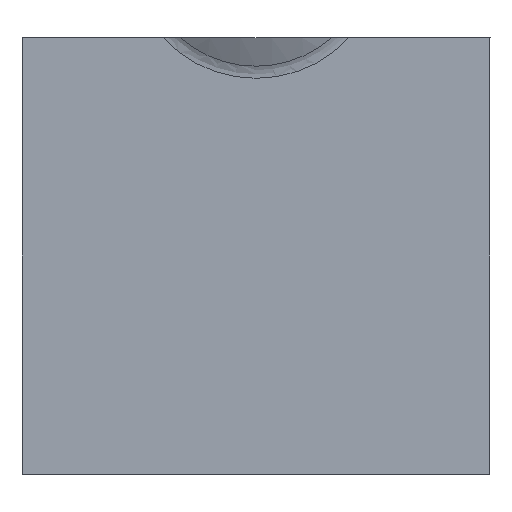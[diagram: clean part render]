
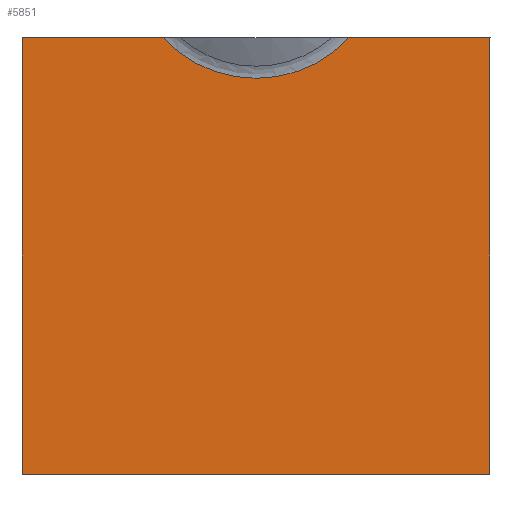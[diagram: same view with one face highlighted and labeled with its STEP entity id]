
A CAD part, top view. The second image highlights one B-rep face of the part: STEP entity #5851.
In plain terms, the highlighted planar face has unit normal (0, 0, 1).
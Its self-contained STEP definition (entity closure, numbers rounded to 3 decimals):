
#262=DIRECTION('',(0.,-1.,0.));
#263=VECTOR('',#262,37.9);
#264=CARTESIAN_POINT('',(-1.819,2.25,10.1));
#265=LINE('',#264,#263);
#1147=DIRECTION('',(1.,0.,0.));
#1148=VECTOR('',#1147,12.244);
#1149=CARTESIAN_POINT('',(-1.819,2.25,10.1));
#1150=LINE('',#1149,#1148);
#1151=CARTESIAN_POINT('',(18.5,9.75,10.1));
#1152=DIRECTION('',(0.,0.,1.));
#1153=DIRECTION('',(-0.733,-0.681,0.));
#1154=AXIS2_PLACEMENT_3D('',#1151,#1152,#1153);
#1156=CARTESIAN_POINT('',(18.5,9.75,10.1));
#1157=DIRECTION('',(0.,0.,1.));
#1158=DIRECTION('',(0.001,-1.,0.));
#1159=AXIS2_PLACEMENT_3D('',#1156,#1157,#1158);
#1161=DIRECTION('',(1.,0.,0.));
#1162=VECTOR('',#1161,12.244);
#1163=CARTESIAN_POINT('',(26.575,2.25,10.1));
#1164=LINE('',#1163,#1162);
#1165=DIRECTION('',(0.,-1.,0.));
#1166=VECTOR('',#1165,37.9);
#1167=CARTESIAN_POINT('',(38.819,2.25,10.1));
#1168=LINE('',#1167,#1166);
#1169=DIRECTION('',(-1.,0.,0.));
#1170=VECTOR('',#1169,40.638);
#1171=CARTESIAN_POINT('',(38.819,-35.65,10.1));
#1172=LINE('',#1171,#1170);
#3728=CARTESIAN_POINT('',(-1.819,2.25,10.1));
#3729=VERTEX_POINT('',#3728);
#3730=CARTESIAN_POINT('',(-1.819,-35.65,10.1));
#3731=VERTEX_POINT('',#3730);
#3811=CARTESIAN_POINT('',(38.819,-35.65,10.1));
#3812=VERTEX_POINT('',#3811);
#3813=CARTESIAN_POINT('',(38.819,2.25,10.1));
#3814=VERTEX_POINT('',#3813);
#3827=CARTESIAN_POINT('',(10.425,2.25,10.1));
#3828=VERTEX_POINT('',#3827);
#3829=CARTESIAN_POINT('',(18.51,-1.271,10.1));
#3830=VERTEX_POINT('',#3829);
#3831=CARTESIAN_POINT('',(26.575,2.25,10.1));
#3832=VERTEX_POINT('',#3831);
#5834=CARTESIAN_POINT('',(18.435,-16.75,10.1));
#5835=DIRECTION('',(0.,0.,1.));
#5836=DIRECTION('',(-1.,0.,0.));
#5837=AXIS2_PLACEMENT_3D('',#5834,#5835,#5836);
#5838=PLANE('',#5837);
#5839=ORIENTED_EDGE('',*,*,#4804,.F.);
#5840=ORIENTED_EDGE('',*,*,#5779,.T.);
#5842=ORIENTED_EDGE('',*,*,#5841,.T.);
#5844=ORIENTED_EDGE('',*,*,#5843,.T.);
#5845=ORIENTED_EDGE('',*,*,#5771,.T.);
#5846=ORIENTED_EDGE('',*,*,#5236,.T.);
#5848=ORIENTED_EDGE('',*,*,#5847,.T.);
#5849=EDGE_LOOP('',(#5839,#5840,#5842,#5844,#5845,#5846,#5848));
#5850=FACE_OUTER_BOUND('',#5849,.F.);
#5851=ADVANCED_FACE('',(#5850),#5838,.T.);
#1155=CIRCLE('',#1154,11.021);
#1160=CIRCLE('',#1159,11.021);
#4804=EDGE_CURVE('',#3729,#3731,#265,.T.);
#5236=EDGE_CURVE('',#3814,#3812,#1168,.T.);
#5771=EDGE_CURVE('',#3832,#3814,#1164,.T.);
#5779=EDGE_CURVE('',#3729,#3828,#1150,.T.);
#5841=EDGE_CURVE('',#3828,#3830,#1155,.T.);
#5843=EDGE_CURVE('',#3830,#3832,#1160,.T.);
#5847=EDGE_CURVE('',#3812,#3731,#1172,.T.);
